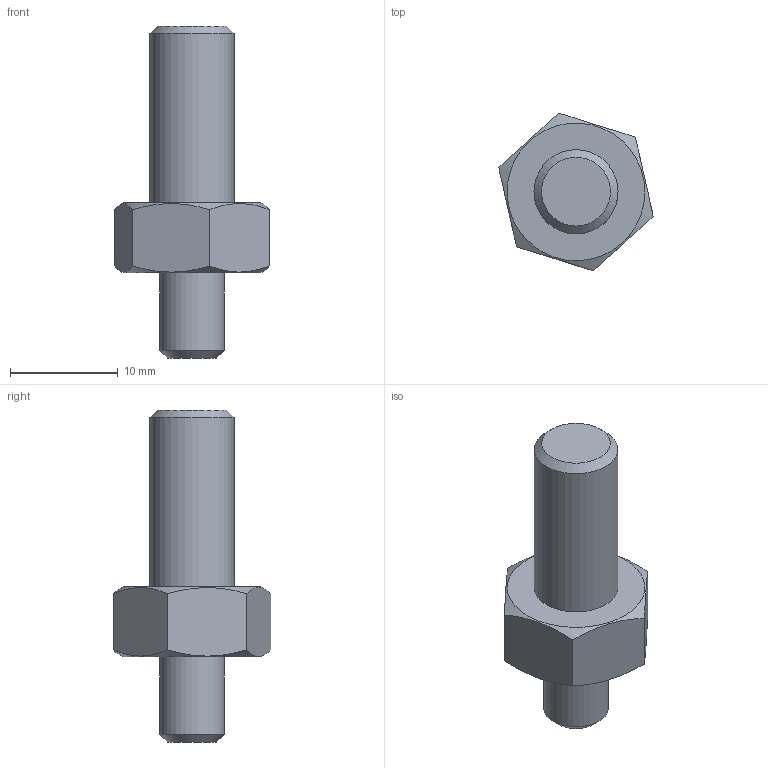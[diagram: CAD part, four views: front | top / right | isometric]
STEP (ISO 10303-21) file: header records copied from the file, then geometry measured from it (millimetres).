
FILE_DESCRIPTION(/* description */ (''),/* implementation_level */ '2;1');
FILE_NAME(/* name */ '1907_ADJUST_SCREW.stp',/* time_stamp */ '2019-07-18T17:18:09+02:00',/* author */ (''),/* organization */ (''),/* preprocessor_version */ 'ST-DEVELOPER v16.7',/* originating_system */ 'SIEMENS PLM Software NX 12.0',/* authorisation */ '');
FILE_SCHEMA (('AUTOMOTIVE_DESIGN { 1 0 10303 214 3 1 1 1 }'));
Length unit declared in the file: millimetre
Products named in the file (1): bmas477C8C18u690
Bounding box: 14.33 x 14.65 x 30.8 mm (x, y, z)
Volume: 1940.4 mm3; surface area: 1098.7 mm2
Topology: 1 solids, 1 shells, 16 faces, 34 edges, 22 vertices
Faces by surface type: plane 10, cone 4, cylinder 2
Full cylindrical faces by diameter (mm): 6 x1, 7.794 x1
Entity records: 450 total; most frequent: CARTESIAN_POINT 123, DIRECTION 56, ORIENTED_EDGE 52, EDGE_CURVE 26, AXIS2_PLACEMENT_3D 25, EDGE_LOOP 24, VERTEX_POINT 20, ADVANCED_FACE 16
